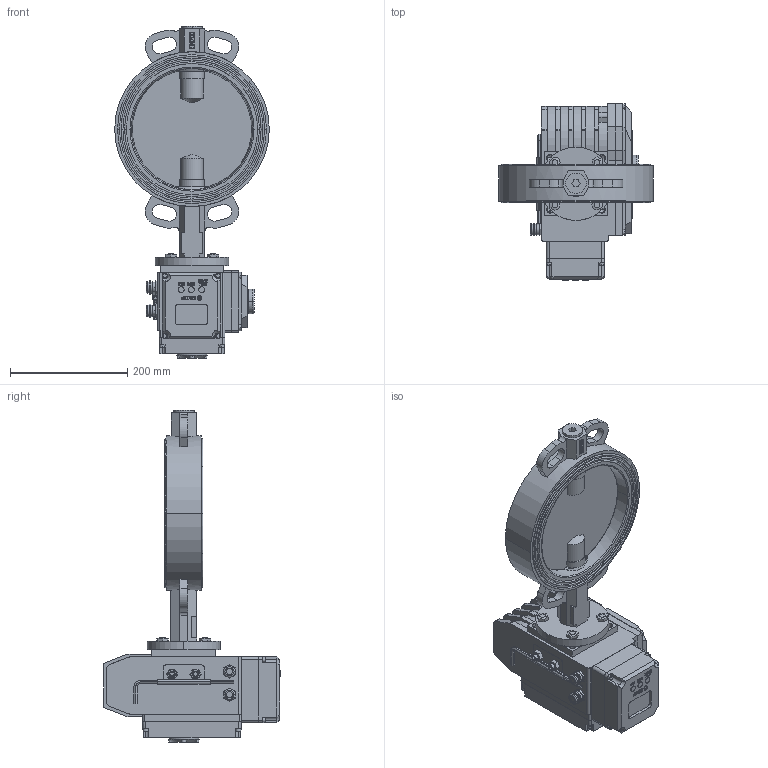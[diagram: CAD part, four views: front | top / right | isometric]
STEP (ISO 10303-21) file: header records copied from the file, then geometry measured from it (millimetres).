
FILE_DESCRIPTION((''),'2;1');
FILE_NAME('VBS_EAR_A_ASM','2025-02-22T',('AMD'),(''),'PRO/ENGINEER BY PARAMETRIC TECHNOLOGY CORPORATION, 2008020','PRO/ENGINEER BY PARAMETRIC TECHNOLOGY CORPORATION, 2008020','');
FILE_SCHEMA(('CONFIG_CONTROL_DESIGN'));
Length unit declared in the file: millimetre
Products named in the file (28): KORPUS; REZ; DISK; SHTIR_1; ZAGLUSHKA; O-RING; SHTIR_2; SHAIBA_RAZREZ; SHAIBA; KOLCO_34_GOST13943; VTULKA; MANZET_REZ; SB_ASM; B-7798-M10-30; DET_1; V-11738-M5; V-11738-M4; DET_2; KREPLENIE; KLUCH; DET_3; G-5915-M10; ELECTROPRIVOD_ASM; DET_4; DET_5; DISPLAY_ASM; ELECTROPRIVOD_WITH_DISPLAY_ASM; VBS_EAR_A_ASM
Assembly tree (53 placements, depth 4):
  VBS_EAR_A_ASM
    SB_ASM
      KORPUS
      REZ
      DISK
      SHTIR_1
      ZAGLUSHKA
      O-RING  x2
      SHTIR_2
      SHAIBA_RAZREZ
      SHAIBA  x2
      KOLCO_34_GOST13943
      VTULKA  x5
      MANZET_REZ
    B-7798-M10-30  x4
    ELECTROPRIVOD_WITH_DISPLAY_ASM
      ELECTROPRIVOD_ASM
        DET_1
        V-11738-M5  x10
        V-11738-M4  x4
        DET_2
        KREPLENIE
        KLUCH
        DET_3
        G-5915-M10  x2
      DISPLAY_ASM
        DET_4
        DET_5
        V-11738-M5  x4
Bounding box: 264 x 302 x 566.5 mm (x, y, z)
Volume: 7076512.9 mm3; surface area: 941504.9 mm2
Topology: 49 solids, 92 shells, 2831 faces, 7458 edges, 4919 vertices
Faces by surface type: plane 1884, cylinder 507, extrusion 300, cone 102, torus 38
Entity records: 78368 total; most frequent: CARTESIAN_POINT 16393, ORIENTED_EDGE 13060, DIRECTION 11729, EDGE_CURVE 6578, VECTOR 5247, LINE 4947, VERTEX_POINT 4353, AXIS2_PLACEMENT_3D 3241
